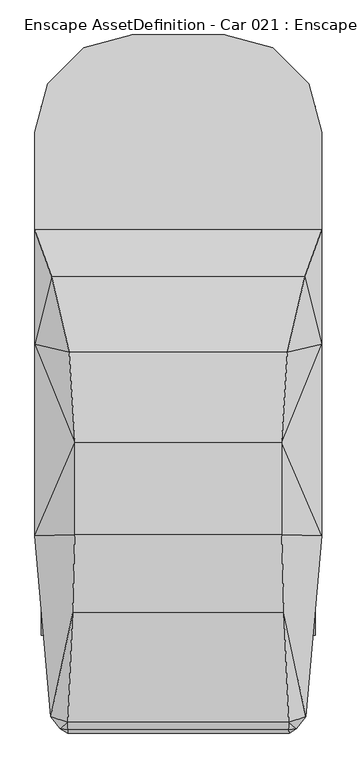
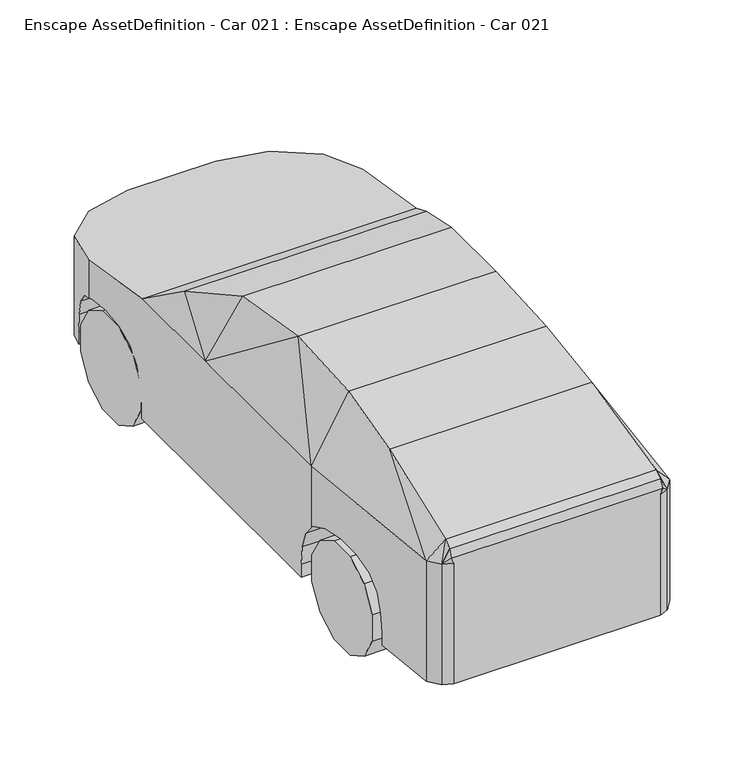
"""IFC4 building model written with IfcOpenShell, lengths in millimetres: geographic element geometry, Enscape AssetDefinition - Car 021 : Enscape AssetDefinition - Car 021."""

from ifc_helpers import new_model, si_unit, origin, place, context, project, spatial, triangles, source, transform, mapped, element, save


def enscape_assetdefinition_car_021_enscape_assetdefinition_car_290f43b4(model_context):
    return source(origin(), model_context, "Body", "Tessellation", [
        triangles([(682.1461533, -1703.6769688, 455.9813607), (949.9025568, -1703.6775501, 455.9813607), (949.9022661, -1602.0578808, 631.9917292), (682.1462259, -1426.046822, -24.8881997), (682.1461533, -1602.0575901, 76.7315446), (682.1461533, -1703.6772594, 252.742022), (949.9026295, -1703.6778408, 252.742022), (682.1461533, -1222.8074833, -24.8883246), (682.1460079, -945.1770458, 455.9812881), (949.9028475, -1426.0471127, -24.8882928), (949.9026295, -1602.0578808, 76.7315718), (949.9022661, -1426.0474033, 733.6113258), (949.9022661, -945.1774092, 455.981179), (682.1460079, -1602.0572994, 631.9917292), (682.1458626, -1426.046822, 733.6115438), (949.9021208, -1222.807338, 733.6115438), (682.1458626, -1222.8070473, 733.6114712), (682.1458626, -1046.7965698, 631.9917292), (682.1461533, -945.1769732, 252.7418949), (949.9022661, -1046.7967878, 631.9917292), (949.9026295, -1222.807774, -24.8883518), (949.9025568, -945.1772638, 252.7418949), (682.1461533, -1046.7967878, 76.7311903), (949.9026295, -1046.7970058, 76.7312085), (682.1463713, 1488.5775982, -24.8881997), (682.1461533, 1691.8175182, -24.8882837), (682.1455719, 1867.8284317, 631.9918018), (949.9026295, 1867.828141, 76.7312267), (949.9026295, 1691.8172276, -24.8882633), (949.9026295, 1312.5666847, 76.7315718), (949.9026295, 1210.946434, 252.742022), (949.9029202, 1488.5778889, -24.8882633), (949.9022661, 1210.9470154, 455.9813607), (682.1461533, 1312.5674114, 76.7315446), (682.1461533, 1210.9475967, 252.742022), (682.1458626, 1210.9473787, 455.9812517), (682.1455719, 1312.5671207, 631.9918018), (949.9019028, 1312.5666847, 631.9916565), (949.9019028, 1488.5773075, 733.6113258), (682.1455719, 1488.5775982, 733.6115438), (682.1454992, 1691.8175182, 733.6116892), (949.9016848, 1691.8178089, 733.6115438), (682.1455719, 1969.448101, 455.9812881), (682.1461533, 1867.828141, 76.7312902), (949.9019028, 1867.828141, 631.9916565), (949.9019028, 1969.447665, 455.981179), (682.1458626, 1969.448101, 252.7418404), (949.9022661, 1969.4475197, 252.7418949), (-682.1461533, -1703.6769688, 455.9813607), (-949.9022661, -1426.0474033, 733.6113258), (-682.1458626, -1426.046822, 733.6115438), (-682.1460079, -1602.0572994, 631.9917292), (-682.1458626, -1222.8070473, 733.6114712), (-949.9022661, -1046.7967878, 631.9917292), (-949.9021208, -1222.807338, 733.6115438), (-682.1458626, -1046.7965698, 631.9917292), (-682.1460079, -945.1770458, 455.9812881), (-949.9022661, -945.1774092, 455.981179), (-682.1461533, -945.1769732, 252.7418949), (-682.1461533, -1046.7967878, 76.7311903), (-949.9025568, -945.1772638, 252.7418949), (-949.9028475, -1426.0471127, -24.8882928), (-682.1462259, -1426.046822, -24.8881997), (-949.9026295, -1222.807774, -24.8883518), (-949.9026295, -1046.7970058, 76.7312085), (-682.1461533, -1222.8074833, -24.8883246), (-682.1461533, -1602.0575901, 76.7315446), (-949.9026295, -1602.0578808, 76.7315718), (-949.9026295, -1703.6778408, 252.742022), (-682.1461533, -1703.6772594, 252.742022), (-949.9025568, -1703.6775501, 455.9813607), (-949.9022661, -1602.0578808, 631.9917292), (-682.1461533, 1312.5674114, 76.7315446), (-949.9026295, 1210.946434, 252.742022), (-682.1455719, 1312.5671207, 631.9918018), (-682.1461533, 1210.9475967, 252.742022), (-949.9022661, 1210.9470154, 455.9813607), (-949.9026295, 1312.5666847, 76.7315718), (-949.9029202, 1488.5778889, -24.8882633), (-682.1463713, 1488.5775982, -24.8881997), (-949.9019028, 1488.5773075, 733.6113258), (-949.9026295, 1691.8172276, -24.8882633), (-682.1458626, 1210.9473787, 455.9812517), (-949.9019028, 1312.5666847, 631.9916565), (-682.1455719, 1488.5775982, 733.6115438), (-949.9019028, 1867.828141, 631.9916565), (-949.9022661, 1969.4475197, 252.7418949), (-949.9019028, 1969.447665, 455.981179), (-949.9026295, 1867.828141, 76.7312267), (-682.1455719, 1969.448101, 455.9812881), (-682.1455719, 1867.8284317, 631.9918018), (-682.1458626, 1969.448101, 252.7418404), (-682.1461533, 1867.828141, 76.7312902), (-682.1454992, 1691.8175182, 733.6116892), (-682.1461533, 1691.8175182, -24.8882837), (-949.9016848, 1691.8178089, 733.6115438), (482.3168899, 1572.9227406, 513.2560624), (482.3168899, 1375.5464161, 660.723333), (482.3168899, 1354.399015, 510.6689384), (482.3168899, 1135.8752169, 505.4946539), (482.3168899, 1121.7769495, 350.2659748), (482.3168899, 1347.3498814, 350.2659748), (482.3168899, 1572.9227406, 267.897456), (482.3168899, 1347.3498814, 267.897456), (482.3168899, 1121.7769495, 267.897456), (735.0945929, 1121.7769495, 267.897456), (987.8723322, 1121.7769495, 267.8974923), (995.6231672, 1121.7769495, 267.8974923), (995.6230946, 1121.7769495, 364.8114169), (995.6230946, 1135.8752169, 509.1310235), (987.8723322, 1135.8752169, 509.1685575), (987.8723322, 1121.7769495, 364.9615894), (735.0945929, 1121.7769495, 360.0630876), (995.6230946, 1178.1700916, 640.0261225), (987.8723322, 1178.1700916, 640.0261225), (735.0945929, 1135.8752169, 507.943923), (735.0945929, 1178.1700916, 640.0261225), (987.8723322, 1262.7599865, 743.511957), (987.8723322, 1403.7430962, 805.6034431), (735.0945929, 1403.7430962, 805.6034431), (482.3168899, 1178.1700916, 640.0261225), (735.0945929, 1262.7599865, 743.511957), (482.3168899, 1262.7599865, 743.511957), (482.3168899, 1403.7430962, 805.6034431), (482.3168899, 1572.9227406, 826.3005083), (482.3168899, 1572.9227406, 671.0719019), (735.0945929, 1742.1023849, 805.6034431), (482.3168899, 1742.1023849, 805.6034431), (987.8723322, 1816.9691814, 772.6307465), (987.8723322, 1742.1023849, 805.6034431), (995.6231672, 1788.0427494, 785.3703758), (987.8723322, 1572.9227406, 826.3006536), (995.6230946, 1742.1023849, 805.6034431), (970.1566257, 1883.0854946, 743.511957), (995.6231672, 1788.0427494, 1081.4390047), (995.6230946, 1572.9227406, 826.3006536), (905.0096575, 2126.2171658, 1025.16446), (947.4907854, 1967.6753895, 640.0261225), (905.0095848, 2126.2171658, 267.8974923), (657.4488235, 2373.777927, 983.9687187), (936.1579742, 2009.9701916, 508.9180641), (735.0945929, 1883.0854946, 743.511957), (482.3168899, 1967.6753895, 640.0261225), (482.3168899, 1883.0854946, 743.511957), (735.0945929, 2009.9701916, 507.943923), (735.0945929, 1967.6753895, 640.0261225), (735.0945929, 2024.0686043, 360.0630876), (482.3168899, 2009.9701916, 505.4946539), (932.3802252, 2024.0686043, 267.8974923), (735.0945929, 2024.0686043, 267.8974923), (932.3802252, 2024.0686043, 363.886219), (482.3168899, 2024.0686043, 267.8974923), (482.3168899, 2024.0686043, 350.2659748), (482.3168899, 1798.4955997, 267.8974923), (482.3168899, 1798.4955997, 350.2659748), (-516.0417572, 1798.4958904, 267.8974923), (-516.0418662, 2024.0686043, 350.2660111), (-516.0418662, 2024.0686043, 267.8974923), (-516.0417572, 1798.4958904, 350.2660111), (-516.0417572, 1572.9228859, 267.8974923), (-516.0417572, 1347.3500267, 267.8974923), (-516.0417572, 1572.9228859, 350.2660111), (-516.0417572, 1354.3991604, 510.6689384), (-516.0417572, 1347.3500267, 350.2660111), (-516.0417572, 1791.4467567, 510.6689384), (-516.0417572, 1572.9228859, 513.2561351), (-516.0417572, 1375.5467068, 660.723333), (-516.0417572, 1135.8754349, 505.4947266), (-516.0417572, 1178.170455, 640.0261951), (-516.0417572, 1262.7602772, 743.511957), (-516.0417572, 1403.7432415, 805.6034431), (-516.0417572, 1742.1026756, 805.6034431), (-516.0417572, 1572.9228859, 671.0719019), (-516.0417572, 1572.9228859, 826.3005083), (-768.8194239, 1403.7432415, 805.6034431), (-995.6230946, 1262.7602772, 743.511957), (-768.8194239, 1572.9230312, 826.3006536), (-995.6230946, 1403.7433868, 805.6034431), (-768.8194239, 1262.7602772, 743.511957), (-995.6230946, 1178.170455, 640.0261951), (-995.6230946, 1135.8754349, 509.0428021), (-768.8194239, 1178.170455, 640.0261951), (-768.8194239, 1135.8754349, 507.943923), (-995.6233126, 1121.7771675, 267.8974923), (-995.6231672, 1111.277009, 267.8974923), (-995.6230946, 1121.7771675, 364.4583135), (-516.0417572, 1121.7771675, 350.2660111), (-768.8194239, 1121.7771675, 360.0631239), (-768.8194239, 1121.7771675, 267.8974923), (-995.6231672, 317.6148791, 267.8974923), (-516.0417572, 1121.7771675, 267.8974923), (995.6231672, -888.7839764, 267.8974923), (995.6231672, 317.6148791, 267.8974923), (995.6231672, -888.784049, 364.8114532), (995.6231672, -902.8824617, 509.1310598), (995.6231672, 1111.277009, 267.8974923), (995.6231672, 1111.277009, 1194.0573486), (995.6231672, 1262.7599865, 743.511957), (995.6230946, 1403.7430962, 805.6034431), (878.6061819, 784.2074381, 1408.5507969), (735.0945929, 1572.9227406, 826.3006536), (-878.6061092, 784.2072927, 1408.5507969), (995.6231672, 317.6148791, 1194.0573486), (757.9184904, 261.4753189, 1644.5379913), (-757.9184904, 261.4752644, 1644.5379913), (717.3865168, -368.9153452, 1704.068224), (-995.6231672, 317.6148791, 1194.0573486), (-717.3865168, -368.9153089, 1704.068224), (718.2523069, -1007.7299864, 1668.9523441), (-718.2523069, -1007.7299137, 1668.9523441), (-734.1399273, -1550.0449219, 1558.8843533), (765.9794809, -2309.3542431, 1338.3029045), (734.1399273, -1550.0449219, 1558.8843533), (-765.9794809, -2309.3542431, 1338.3029045), (-885.1948059, -2271.1773582, 1194.0572033), (-767.55126, -2362.3648155, 1300.0379436), (769.1231117, -2384.3223415, 1238.4572548), (767.55126, -2362.3648155, 1300.0379436), (819.6306393, -2354.916869, 267.8976013), (819.6306393, -2354.916869, 1194.0572033), (750.0207167, -2384.3221962, 1194.0572033), (-769.1231117, -2384.3223415, 1238.4572548), (-750.0207167, -2384.3221962, 1194.0572033), (-750.0207167, -2384.3221962, 267.8976013), (-819.6306393, -2354.916869, 267.8976013), (-819.6306393, -2354.916869, 1194.0572033), (-995.6231672, -1014.2181078, 1194.0573486), (-952.1452978, -1509.1091938, 805.6035158), (-768.8194239, -1339.9296947, 826.3006536), (-967.0082714, -1339.9296947, 826.3006536), (-768.8192785, -1650.0924488, 743.511957), (-939.7593533, -1650.0924488, 743.511957), (-932.3278301, -1734.6823437, 640.0261951), (-768.8192785, -1734.6823437, 640.0261951), (-768.8190605, -1776.9770004, 507.9439957), (-928.6120686, -1776.9770004, 508.718149), (-927.373554, -1791.0754131, 267.8975468), (-885.1948059, -2271.1773582, 267.8976013), (-768.8190605, -1791.0754131, 267.8975468), (-927.373554, -1791.0754131, 363.1357924), (-768.8190605, -1791.0754131, 360.0631239), (-516.0415755, -1791.0754131, 267.8975468), (-516.0417572, -1565.5025539, 267.8975468), (-516.0415755, -1791.0754131, 350.2660838), (-516.0417572, -1558.4535656, 510.6690474), (-516.0415755, -1776.9772911, 505.4947266), (-516.0417572, -1565.5025539, 350.2660838), (-516.0415755, -1734.6823437, 640.0261951), (-516.0415755, -1650.0924488, 743.5120296), (-516.0417572, -1537.3060192, 660.7234056), (-516.0417572, -1509.1091938, 805.6035158), (-516.0417572, -1339.9296947, 513.2561351), (-516.0417572, -1339.9299854, 826.3006536), (-516.0417572, -1339.9296947, 671.0719019), (-516.0417572, -1170.749905, 805.6035158), (-768.8194239, -1509.1091938, 805.6035158), (-516.0417572, -1029.7670134, 743.511957), (-516.0417572, -1142.553443, 660.7234056), (-768.8194239, -1170.749905, 805.6034431), (-981.8713177, -1170.749905, 805.6034431), (-516.0417572, -945.1771185, 640.0261951), (-768.8194239, -945.1771185, 640.0261951), (-768.8194239, -1029.7670134, 743.511957), (-994.2571896, -1029.7670134, 743.511957), (-995.6231672, -1014.2181078, 724.4896442), (-995.6230946, -945.1771185, 640.0261951), (-995.6230946, -902.8821711, 509.0428021), (-768.8194239, -902.8821711, 507.9439957), (-516.0417572, -902.8821711, 505.4947266), (-995.6230946, -888.7839037, 364.4583135), (-995.6231672, -888.783831, 267.8974923), (-516.0417572, -888.7839037, 350.2660838), (-768.8194239, -888.7839037, 360.0631239), (-516.0417572, -1121.4059692, 510.669011), (-768.8194239, -888.7839037, 267.897456), (482.3170352, -888.784049, 267.8974923), (-516.0417572, -888.7839037, 267.897456), (-516.0417572, -1114.3566175, 267.8974923), (-516.0417572, -1114.3566175, 350.2660838), (-516.0417572, -1014.2181078, 267.8974923), (482.3170352, -1014.2181078, 267.897456), (482.3169625, -888.784049, 350.2660111), (735.0947382, -888.784049, 267.8974923), (735.0947382, -888.784049, 360.0631239), (987.8724775, -888.784049, 364.9616984), (735.0947382, -902.8824617, 507.943923), (482.3169262, -902.8824617, 505.4947266), (987.8724775, -902.8824617, 509.1686302), (735.0947382, -945.1772638, 640.0261951), (987.8724775, -888.784049, 267.8974923), (995.6231672, -945.1772638, 640.0261951), (987.8724775, -945.1772638, 640.0261951), (995.6231672, -1014.2181078, 724.4894262), (994.2571169, -1029.767304, 743.511957), (987.8724775, -1029.767304, 743.511957), (987.8724775, -1102.4414291, 775.5189423), (735.0947382, -1029.767304, 743.511957), (735.0947382, -1170.7502684, 805.6035158), (981.8713177, -1170.7502684, 805.6034431), (967.0082714, -1339.9299854, 826.3006536), (995.6231672, -1014.2181078, 1194.0573486), (735.0948109, -1339.9299854, 826.3006536), (482.3170352, -1339.9299854, 671.0719019), (482.3170352, -1339.9299854, 826.3006536), (735.0948109, -1509.1094845, 805.6034431), (482.3170352, -1509.1094845, 805.6035158), (952.1452251, -1509.1094845, 805.6034431), (939.7592806, -1650.0927395, 743.511957), (885.1948059, -2271.1773582, 1194.0572033), (735.0948109, -1650.0927395, 743.511957), (482.3170715, -1650.0927395, 743.5120296), (482.3170715, -1734.6823437, 640.0261951), (735.0948109, -1734.6823437, 640.0261951), (482.3170352, -1558.4535656, 510.669011), (482.3170352, -1537.3060192, 660.7234056), (928.6120686, -1776.9772911, 508.8815111), (932.3278301, -1734.6823437, 640.0261951), (885.1948059, -2271.1773582, 267.8976013), (735.0948109, -1791.0757038, 267.8975468), (750.0207167, -2384.3221962, 267.8976013), (482.3171079, -1776.9772911, 505.4947266), (735.0948109, -1776.9772911, 507.9439957), (735.0948109, -1791.0757038, 360.0631239), (927.373554, -1791.0757038, 363.7892773), (927.373554, -1791.0757038, 267.8975468), (482.3170715, -1791.0757038, 350.2660838), (482.3170352, -1565.5028446, 350.2660838), (482.3170715, -1791.0757038, 267.8975468), (482.3170352, -1565.5028446, 267.8975468), (482.3170352, -1339.9299854, 267.8974923), (482.3170352, -1114.3569082, 350.2660838), (482.3170352, -1339.9299854, 350.2660838), (482.3170352, -1121.4061872, 510.669011), (482.3170352, -1114.3569082, 267.8974923), (-516.0417572, -1339.9296947, 267.8974923), (-516.0417572, -1339.9296947, 350.2660838), (482.3170352, -1142.553661, 660.7234056), (482.3169625, -945.1772638, 640.0261951), (482.3169625, -1029.767304, 743.511957), (482.3170352, -1170.7502684, 805.6035158), (482.3170352, -1339.9299854, 513.2561351), (-995.6231672, 1111.277009, 1194.0573486), (-995.6230946, 1572.9230312, 826.3006536), (-995.6230946, 1742.1026756, 805.6034431), (-995.6231672, 1788.0427494, 1081.4390047), (-768.8194239, 1883.08564, 743.511957), (-970.1564804, 1883.0857853, 743.511957), (-768.8194239, 1742.1026756, 805.6034431), (-995.6231672, 1788.0427494, 785.3705938), (-905.0095848, 2126.2171658, 1025.1646053), (-516.0418662, 1967.6753895, 640.0261225), (-947.4907127, 1967.6753895, 640.0261951), (-768.8194239, 1967.6753895, 640.0261951), (-936.1579016, 2009.9704823, 508.7546657), (-657.4488235, 2373.777927, 983.9687914), (-768.8194239, 2009.9704823, 507.943923), (-932.3802252, 2024.0686043, 363.2326979), (-905.0096575, 2126.2171658, 267.8974923), (-932.3802979, 2024.0686043, 267.8974923), (-657.4488235, 2373.777927, 267.8974923), (-319.2744799, 2464.3914368, 968.8900606), (-319.2745889, 2464.3914368, 267.8974923), (-768.8194239, 2024.0686043, 267.897456), (-768.8194239, 2024.0686043, 360.0631239), (-516.0418662, 2009.9704823, 505.4946539), (-516.0417572, 1770.2992104, 660.723333), (-516.0418662, 1883.08564, 743.511957), (319.2744799, 2464.3914368, 267.8974923), (657.4488235, 2373.777927, 267.8974923), (319.2745889, 2464.3914368, 968.8900606), (482.3168899, 1572.9227406, 350.2659748), (482.3168899, 1791.4464661, 510.6689384), (482.3168899, 1770.299065, 660.723333)], [[97, 372, 373], [371, 155, 372], [371, 372, 97], [362, 361, 370], [370, 361, 345], [139, 369, 140], [369, 370, 140], [369, 368, 370], [362, 370, 368], [368, 369, 152], [362, 368, 152], [152, 158, 362], [366, 172, 367], [366, 367, 351], [165, 366, 351], [166, 366, 165], [165, 351, 365], [365, 159, 165], [365, 157, 159], [364, 157, 365], [363, 158, 157], [364, 359, 363], [363, 157, 364], [360, 362, 158], [158, 363, 360], [360, 361, 362], [360, 355, 361], [358, 360, 363], [363, 359, 358], [358, 355, 360], [358, 359, 357], [364, 357, 359], [357, 364, 356], [356, 365, 351], [364, 365, 356], [356, 351, 353], [358, 357, 354], [354, 356, 353], [357, 356, 354], [350, 358, 354], [358, 350, 355], [350, 345, 361], [361, 355, 350], [352, 350, 354], [354, 353, 352], [352, 353, 346], [351, 367, 346], [351, 346, 353], [345, 350, 347], [352, 347, 350], [352, 346, 347], [347, 349, 345], [345, 349, 344], [347, 346, 348], [349, 347, 348], [348, 346, 367], [348, 344, 349], [348, 367, 172], [345, 344, 343], [348, 343, 344], [342, 345, 343], [190, 207, 342], [341, 315, 314], [341, 303, 315], [303, 337, 340], [337, 339, 340], [341, 337, 303], [337, 338, 339], [341, 333, 337], [333, 338, 337], [274, 279, 336], [335, 278, 334], [279, 278, 335], [279, 335, 336], [336, 335, 243], [334, 330, 335], [243, 335, 330], [330, 334, 331], [332, 331, 333], [330, 331, 332], [332, 333, 341], [314, 332, 341], [314, 327, 332], [321, 327, 314], [243, 330, 329], [332, 327, 329], [332, 329, 330], [326, 328, 329], [321, 326, 327], [326, 329, 327], [323, 326, 321], [328, 319, 320], [319, 328, 326], [319, 326, 323], [323, 325, 319], [323, 324, 325], [324, 323, 322], [323, 321, 322], [324, 322, 316], [319, 318, 320], [325, 318, 319], [219, 320, 318], [318, 324, 316], [318, 325, 324], [309, 219, 318], [318, 316, 317], [309, 318, 317], [316, 322, 313], [316, 313, 317], [322, 321, 312], [314, 315, 312], [322, 312, 313], [314, 312, 321], [315, 311, 312], [317, 313, 310], [312, 311, 310], [312, 310, 313], [309, 317, 308], [317, 310, 308], [301, 309, 307], [308, 307, 309], [308, 310, 305], [308, 305, 307], [310, 311, 306], [315, 306, 311], [310, 306, 305], [303, 306, 315], [303, 304, 306], [303, 340, 304], [307, 305, 302], [302, 305, 306], [302, 306, 304], [300, 301, 307], [307, 302, 300], [299, 301, 300], [300, 302, 298], [304, 340, 298], [300, 298, 299], [304, 298, 302], [340, 339, 297], [297, 339, 338], [340, 297, 298], [297, 338, 289], [299, 296, 301], [298, 297, 296], [296, 299, 298], [296, 294, 301], [295, 297, 289], [297, 295, 296], [296, 295, 294], [294, 293, 301], [293, 294, 295], [295, 292, 293], [295, 289, 292], [301, 293, 291], [203, 301, 291], [292, 291, 293], [288, 292, 289], [288, 291, 292], [203, 291, 195], [288, 195, 291], [290, 192, 194], [285, 194, 195], [290, 194, 285], [285, 195, 288], [286, 289, 338], [288, 289, 286], [286, 285, 288], [333, 287, 338], [286, 338, 287], [331, 287, 333], [286, 284, 285], [284, 290, 285], [287, 284, 286], [284, 283, 290], [287, 282, 284], [331, 282, 287], [282, 283, 284], [282, 276, 283], [278, 281, 334], [331, 334, 281], [282, 331, 281], [281, 276, 282], [278, 280, 281], [278, 279, 280], [281, 280, 277], [190, 276, 277], [276, 281, 277], [277, 275, 190], [271, 190, 275], [279, 272, 280], [275, 277, 272], [272, 277, 280], [269, 272, 279], [274, 261, 269], [269, 279, 274], [273, 272, 269], [273, 271, 275], [275, 272, 273], [190, 271, 270], [273, 270, 271], [270, 273, 268], [268, 269, 261], [273, 269, 268], [190, 270, 267], [207, 190, 267], [270, 268, 267], [227, 207, 266], [266, 207, 267], [267, 268, 262], [267, 262, 266], [268, 261, 262], [227, 266, 265], [265, 266, 262], [227, 265, 264], [227, 260, 230], [227, 264, 260], [262, 263, 265], [263, 260, 264], [263, 264, 265], [261, 263, 262], [263, 259, 260], [259, 229, 230], [259, 230, 260], [259, 263, 257], [261, 257, 263], [274, 258, 261], [258, 257, 261], [229, 259, 255], [258, 255, 257], [259, 257, 255], [253, 256, 229], [229, 255, 253], [253, 251, 256], [254, 253, 255], [254, 251, 253], [254, 255, 258], [252, 254, 258], [252, 258, 274], [274, 336, 252], [254, 250, 251], [250, 249, 251], [252, 250, 254], [250, 248, 249], [252, 245, 250], [336, 245, 252], [245, 248, 250], [336, 247, 245], [336, 243, 247], [245, 246, 248], [247, 246, 245], [247, 244, 246], [243, 244, 247], [242, 329, 328], [242, 243, 329], [243, 242, 244], [244, 242, 239], [241, 239, 237], [246, 244, 241], [244, 239, 241], [235, 248, 246], [246, 241, 235], [235, 241, 240], [241, 237, 240], [238, 239, 242], [238, 237, 239], [237, 238, 240], [240, 238, 236], [235, 240, 236], [234, 235, 236], [235, 234, 248], [251, 249, 231], [231, 249, 248], [251, 231, 256], [231, 248, 234], [236, 238, 233], [231, 234, 233], [234, 236, 233], [256, 231, 232], [231, 233, 232], [227, 230, 228], [229, 256, 228], [229, 228, 230], [256, 232, 228], [232, 233, 215], [215, 227, 228], [238, 215, 233], [215, 228, 232], [226, 215, 238], [226, 238, 225], [224, 238, 242], [320, 224, 328], [224, 225, 238], [242, 328, 224], [223, 226, 225], [223, 225, 224], [224, 320, 221], [224, 221, 223], [222, 223, 221], [222, 226, 223], [222, 216, 226], [216, 222, 217], [222, 221, 217], [220, 221, 320], [309, 220, 219], [220, 217, 221], [220, 320, 219], [220, 218, 217], [216, 217, 218], [226, 216, 214], [214, 216, 218], [226, 214, 215], [220, 309, 212], [220, 212, 218], [214, 218, 212], [309, 301, 213], [213, 212, 309], [215, 214, 211], [227, 215, 211], [211, 214, 212], [211, 212, 213], [211, 210, 227], [209, 210, 211], [209, 213, 301], [209, 211, 213], [208, 210, 209], [208, 227, 210], [207, 227, 208], [301, 203, 206], [206, 209, 301], [208, 209, 206], [205, 208, 206], [208, 205, 207], [205, 206, 204], [204, 206, 203], [202, 205, 204], [202, 342, 207], [205, 202, 207], [200, 204, 203], [202, 204, 200], [200, 342, 202], [119, 201, 132], [136, 119, 132], [136, 199, 119], [203, 197, 200], [199, 136, 197], [200, 197, 342], [198, 199, 197], [196, 197, 203], [194, 193, 195], [193, 203, 195], [192, 193, 194], [283, 276, 193], [290, 283, 193], [193, 192, 290], [190, 193, 276], [196, 203, 193], [187, 191, 189], [189, 191, 185], [185, 196, 193], [190, 342, 185], [185, 193, 190], [185, 184, 189], [188, 189, 184], [187, 189, 188], [185, 342, 186], [184, 185, 186], [188, 184, 186], [183, 188, 186], [181, 186, 342], [183, 186, 181], [182, 183, 181], [180, 181, 342], [182, 181, 180], [179, 182, 180], [176, 180, 342], [179, 180, 176], [342, 178, 176], [342, 343, 178], [348, 177, 343], [177, 178, 343], [175, 179, 176], [177, 175, 178], [175, 176, 178], [348, 172, 174], [174, 175, 177], [348, 174, 177], [173, 174, 172], [166, 173, 366], [173, 172, 366], [174, 171, 175], [171, 179, 175], [173, 171, 174], [171, 170, 179], [173, 167, 171], [167, 170, 171], [166, 167, 173], [179, 170, 169], [183, 182, 169], [167, 169, 170], [179, 169, 182], [168, 187, 188], [183, 169, 168], [168, 188, 183], [163, 168, 169], [166, 163, 167], [163, 169, 167], [165, 159, 162], [162, 163, 166], [165, 162, 166], [164, 187, 168], [162, 164, 163], [164, 168, 163], [161, 191, 187], [161, 187, 164], [160, 161, 164], [160, 164, 162], [159, 160, 162], [152, 156, 158], [157, 158, 156], [159, 156, 160], [157, 156, 159], [160, 156, 103], [161, 160, 103], [103, 155, 371], [152, 154, 156], [154, 103, 156], [103, 154, 155], [154, 152, 153], [154, 153, 155], [139, 150, 369], [150, 152, 369], [153, 152, 150], [149, 150, 139], [149, 139, 151], [147, 150, 149], [147, 149, 151], [153, 150, 147], [148, 153, 147], [155, 153, 148], [155, 148, 372], [373, 143, 144], [372, 148, 143], [372, 143, 373], [145, 147, 151], [145, 143, 148], [148, 147, 145], [151, 139, 141], [145, 151, 141], [146, 145, 141], [145, 146, 143], [142, 144, 143], [142, 143, 146], [142, 146, 138], [146, 141, 138], [139, 137, 141], [137, 140, 370], [139, 140, 137], [138, 141, 137], [137, 134, 138], [142, 138, 134], [137, 135, 134], [135, 370, 345], [135, 137, 370], [342, 197, 135], [135, 197, 136], [345, 342, 135], [133, 135, 136], [131, 135, 133], [134, 135, 129], [135, 131, 129], [142, 134, 129], [130, 129, 131], [130, 133, 136], [201, 130, 132], [130, 131, 133], [130, 136, 132], [127, 142, 129], [129, 130, 127], [201, 127, 130], [128, 144, 142], [128, 142, 127], [373, 144, 128], [126, 373, 128], [97, 126, 98], [97, 373, 126], [125, 128, 127], [125, 127, 201], [126, 128, 125], [119, 120, 201], [120, 125, 201], [120, 124, 125], [126, 125, 124], [126, 124, 98], [98, 124, 123], [98, 123, 121], [122, 123, 124], [121, 123, 122], [122, 124, 120], [199, 198, 118], [118, 122, 120], [199, 118, 119], [118, 120, 119], [197, 114, 198], [118, 198, 114], [118, 114, 115], [117, 122, 118], [121, 122, 117], [117, 118, 115], [116, 121, 117], [111, 116, 117], [111, 115, 114], [111, 117, 115], [197, 110, 114], [111, 114, 110], [112, 113, 116], [112, 116, 111], [110, 112, 111], [197, 109, 110], [196, 108, 109], [197, 196, 109], [110, 109, 112], [107, 108, 196], [109, 108, 107], [107, 113, 112], [109, 107, 112], [106, 107, 196], [107, 106, 113], [105, 191, 161], [105, 106, 196], [185, 191, 105], [196, 185, 105], [103, 104, 161], [161, 104, 105], [106, 105, 101], [101, 105, 104], [106, 101, 113], [102, 104, 103], [101, 104, 102], [102, 103, 371], [113, 101, 100], [116, 100, 121], [100, 101, 102], [113, 100, 116], [99, 98, 121], [99, 102, 371], [99, 121, 100], [97, 98, 99], [100, 102, 99], [99, 371, 97], [85, 94, 96], [91, 96, 94], [94, 85, 95], [91, 94, 95], [95, 93, 91], [90, 91, 93], [95, 89, 93], [92, 90, 93], [91, 90, 88], [92, 88, 90], [91, 86, 96], [91, 88, 86], [93, 89, 87], [92, 87, 88], [86, 88, 87], [93, 87, 92], [95, 82, 89], [87, 89, 82], [87, 82, 81], [86, 87, 81], [81, 96, 86], [85, 96, 81], [75, 85, 81], [75, 81, 84], [83, 75, 84], [77, 84, 81], [83, 84, 77], [82, 79, 81], [79, 77, 81], [80, 79, 82], [80, 82, 95], [78, 74, 77], [79, 78, 77], [80, 78, 79], [76, 74, 78], [76, 83, 77], [75, 83, 76], [76, 77, 74], [80, 73, 78], [73, 80, 95], [73, 75, 76], [85, 75, 73], [76, 78, 73], [73, 95, 85], [49, 52, 72], [52, 50, 72], [71, 72, 50], [49, 72, 71], [70, 49, 71], [70, 71, 69], [70, 69, 68], [68, 69, 71], [49, 70, 67], [70, 68, 67], [67, 63, 49], [67, 68, 62], [62, 68, 71], [67, 62, 63], [62, 71, 50], [66, 65, 60], [66, 64, 65], [63, 62, 64], [64, 62, 50], [63, 64, 66], [60, 65, 61], [61, 65, 64], [66, 60, 59], [60, 61, 59], [59, 57, 66], [59, 61, 58], [58, 64, 50], [58, 61, 64], [59, 58, 57], [57, 58, 54], [57, 54, 56], [53, 56, 54], [66, 57, 53], [57, 56, 53], [50, 55, 58], [54, 58, 55], [53, 54, 55], [52, 51, 50], [51, 53, 55], [63, 66, 51], [51, 52, 49], [53, 51, 66], [51, 55, 50], [51, 49, 63], [29, 28, 48], [29, 48, 39], [48, 28, 44], [48, 44, 47], [43, 47, 44], [46, 48, 47], [46, 47, 43], [48, 45, 39], [48, 46, 45], [27, 45, 46], [27, 43, 44], [27, 46, 43], [42, 45, 27], [45, 42, 39], [42, 27, 41], [40, 39, 42], [40, 42, 41], [37, 39, 40], [37, 38, 39], [36, 37, 40], [36, 38, 37], [35, 36, 40], [34, 35, 40], [36, 33, 38], [35, 31, 33], [39, 38, 33], [35, 33, 36], [39, 33, 32], [32, 29, 39], [30, 31, 35], [30, 32, 33], [33, 31, 30], [30, 35, 34], [25, 32, 30], [29, 32, 25], [25, 30, 34], [28, 29, 26], [41, 27, 26], [40, 41, 26], [26, 25, 34], [44, 26, 27], [28, 26, 44], [29, 25, 26], [26, 34, 40], [22, 24, 23], [21, 24, 22], [24, 21, 8], [24, 8, 23], [19, 23, 8], [22, 23, 19], [13, 22, 19], [22, 13, 21], [18, 20, 13], [9, 19, 8], [18, 13, 9], [13, 19, 9], [18, 9, 17], [17, 20, 18], [17, 16, 20], [13, 20, 16], [15, 17, 9], [15, 16, 17], [14, 3, 12], [15, 12, 16], [13, 12, 21], [12, 3, 2], [12, 13, 16], [14, 12, 15], [2, 7, 11], [12, 2, 11], [10, 21, 12], [11, 10, 12], [21, 10, 4], [8, 4, 9], [21, 4, 8], [10, 11, 5], [10, 5, 4], [11, 7, 6], [6, 7, 2], [11, 6, 5], [1, 2, 3], [1, 9, 4], [1, 14, 15], [5, 6, 1], [4, 5, 1], [1, 3, 14], [6, 2, 1], [1, 15, 9]]),
    ])


if __name__ == "__main__":
    model = new_model("IFC4")
    model_context = context("Model", 3, world=origin())
    ifc_project = project(units=[si_unit("LENGTHUNIT", "METRE", prefix="MILLI")], contexts=[model_context])
    site = spatial("IfcSite", under=ifc_project)
    building = spatial("IfcBuilding", under=site)
    placement = place(None, origin())
    enscape_assetdefinition_car_021_enscape_assetdefinition_car_shape = enscape_assetdefinition_car_021_enscape_assetdefinition_car_290f43b4(model_context)
    element("IfcGeographicElement", 1, ObjectType="Enscape AssetDefinition - Car 021 : Enscape AssetDefinition - Car 021", at=placement, inside=building, context=model_context, shape_type="MappedRepresentation", body=[
        mapped(enscape_assetdefinition_car_021_enscape_assetdefinition_car_shape, transform((0.0, 0.0, 0.0), x_axis=(1.0, 0.0, 0.0), y_axis=(0.0, 1.0, 0.0), z_axis=(0.0, 0.0, 1.0))),
    ])
    save(model, "model.ifc")
